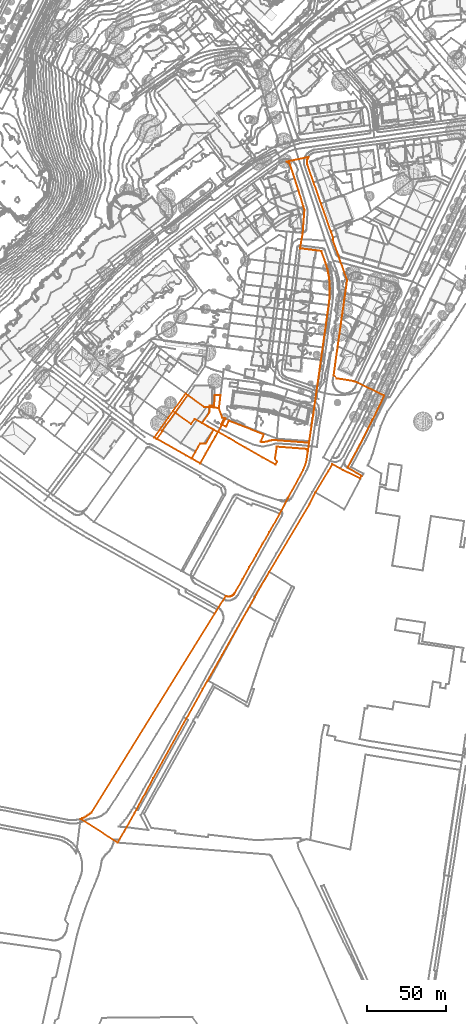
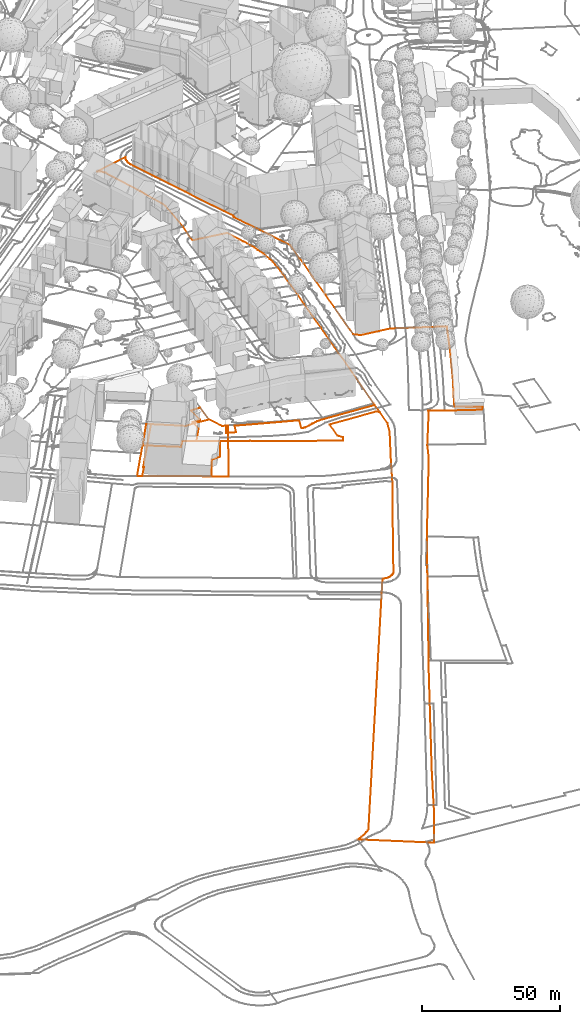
# Not in any storey, part 120 of 477: 3 geographic elements, 2 civil elements.
"""IFC4 model written with IfcOpenShell, lengths in metres."""

import ifcopenshell
import ifcopenshell.guid

model = None  # the IFC model being written
_history = None  # IfcOwnerHistory: only IFC2X3 demands one
_inside = {}  # id of a spatial element -> (the spatial element, [elements in it])
_under = {}  # id of a project, library or spatial element -> (it, [spatial elements below it])
_declared = {}  # id of a project -> (the project, [libraries it declares])
_typed = {}  # id of a type object -> (the type object, [elements of that type])
_made_of = {}  # id of a material, layer set ... -> (it, [elements and type objects made of it])


def new_model(schema):
    """Start an empty IFC model of exactly this schema.

    Asked for "IFC4X3", IfcOpenShell would pick the latest addendum, in which some entities
    have other attributes; the version numbers below select the first issue.
    IFC2X3 requires an IfcOwnerHistory on every rooted entity: one is made here for all.
    """
    global model, _history
    if schema == "IFC4X3":
        model = ifcopenshell.file(schema_version=(4, 3, 0, 0))
    else:
        model = ifcopenshell.file(schema=schema)
    _inside.clear()
    _under.clear()
    _declared.clear()
    _typed.clear()
    _made_of.clear()
    _history = None
    if model.schema == "IFC2X3":
        org = make("IfcOrganization", Name="unknown")
        user = make(
            "IfcPersonAndOrganization",
            ThePerson=make("IfcPerson", FamilyName="unknown"),
            TheOrganization=org,
        )
        app = make(
            "IfcApplication",
            ApplicationDeveloper=org,
            Version="unknown",
            ApplicationFullName="unknown",
            ApplicationIdentifier="unknown",
        )
        _history = make(
            "IfcOwnerHistory",
            OwningUser=user,
            OwningApplication=app,
            ChangeAction="ADDED",
            CreationDate=0,
        )
    return model


def make(cls, **values):
    """One entity of the class cls with the attributes given. An attribute that is None is left unset."""
    return model.create_entity(
        cls, **{name: value for name, value in values.items() if value is not None}
    )


def entity(cls, *values):
    """Any entity or typed value of the class cls, its attributes in the order of the schema. None: left unset."""
    e = model.create_entity(cls)
    for i, value in enumerate(values):
        if value is not None:
            e[i] = value
    return e


def rooted(cls, **values):
    """An entity with a GlobalId (a new one), such as an element, a storey or a relation."""
    return make(cls, GlobalId=ifcopenshell.guid.new(), OwnerHistory=_history, **values)


def si_unit(unit_type, name, prefix=None):
    """IfcSIUnit, for example si_unit("LENGTHUNIT", "METRE", prefix="MILLI")."""
    return make("IfcSIUnit", UnitType=unit_type, Prefix=prefix, Name=name)


def assignment(units):
    """IfcUnitAssignment: the units of a project."""
    return None if units is None else make("IfcUnitAssignment", Units=units)


def point(xyz):
    """IfcCartesianPoint."""
    return None if xyz is None else make("IfcCartesianPoint", Coordinates=xyz)


def direction(xyz):
    """IfcDirection."""
    return None if xyz is None else make("IfcDirection", DirectionRatios=xyz)


def frame(location, z_axis=None, x_axis=None):
    """IfcAxis2Placement3D, a coordinate frame: its origin and axes. An axis left out is left unset."""
    return make(
        "IfcAxis2Placement3D",
        Location=point(location),
        Axis=direction(z_axis),
        RefDirection=direction(x_axis),
    )


def origin_with_axes():
    """The frame at (0, 0, 0) with the z axis (0, 0, 1) and the x axis (1, 0, 0) written out."""
    return frame((0.0, 0.0, 0.0), z_axis=(0.0, 0.0, 1.0), x_axis=(1.0, 0.0, 0.0))


def place(relative_to, where):
    """IfcLocalPlacement: puts the frame where relative to a parent placement (None: the world)."""
    return make(
        "IfcLocalPlacement", PlacementRelTo=relative_to, RelativePlacement=where
    )


def context(
    kind, dimensions, precision=None, world=None, true_north=None, identifier=None
):
    """IfcGeometricRepresentationContext, for example the 3D "Model" context."""
    return make(
        "IfcGeometricRepresentationContext",
        ContextIdentifier=identifier,
        ContextType=kind,
        CoordinateSpaceDimension=dimensions,
        Precision=precision,
        WorldCoordinateSystem=world,
        TrueNorth=true_north,
    )


def subcontext(parent, identifier, kind, view, scale=None):
    """IfcGeometricRepresentationSubContext, for example "Body" below "Model"."""
    return make(
        "IfcGeometricRepresentationSubContext",
        ContextIdentifier=identifier,
        ContextType=kind,
        ParentContext=parent,
        TargetScale=scale,
        TargetView=view,
    )


def project(units=None, contexts=None):
    """IfcProject with its units and contexts."""
    return rooted(
        "IfcProject",
        Name="project",
        RepresentationContexts=contexts,
        UnitsInContext=assignment(units),
    )


def spatial(cls, under=None, at=None, **own):
    """A site, building, storey or space (cls), placed at a placement, below another one or the project."""
    s = rooted(cls, ObjectPlacement=at, **own)
    if under is not None:
        _under.setdefault(under.id(), (under, []))[1].append(s)
    return s


def shape(context_of_items, identifier, shape_type, items):
    """IfcShapeRepresentation: the items that make up one representation, for example the "Body"."""
    return make(
        "IfcShapeRepresentation",
        ContextOfItems=context_of_items,
        RepresentationIdentifier=identifier,
        RepresentationType=shape_type,
        Items=items,
    )


def made_of(thing, what):
    """Note that an element or type object is made of a material, layer set ...; save() writes the relation."""
    if what is not None:
        _made_of.setdefault(what.id(), (what, []))[1].append(thing)
    return thing


def element(
    cls,
    number,
    at=None,
    inside=None,
    cuts=None,
    type_object=None,
    material=None,
    context=None,
    identifier="Body",
    shape_type=None,
    held_by="IfcProductDefinitionShape",
    body=None,
    shapes=None,
    **own,
):
    """One element of the class cls, such as IfcWall. Its Tag is "e" and its number.

    at: its placement. inside: the storey or other place that contains it. cuts: it is an
    opening in that element (IfcRelVoidsElement). A single representation is given by context,
    identifier, shape_type and body (its items); several are given by shapes. held_by: the class
    of the entity that holds the representations. save() writes the other relations.
    """
    e = rooted(cls, Tag="e%d" % number, ObjectPlacement=at, **own)
    if body is not None:
        shapes = [shape(context, identifier, shape_type, body)]
    if shapes is not None:
        e.Representation = make(held_by, Representations=shapes)
    if inside is not None:
        _inside.setdefault(inside.id(), (inside, []))[1].append(e)
    if cuts is not None:
        rooted(
            "IfcRelVoidsElement", RelatingBuildingElement=cuts, RelatedOpeningElement=e
        )
    if type_object is not None:
        _typed.setdefault(type_object.id(), (type_object, []))[1].append(e)
    return made_of(e, material)


def aggregate(whole, parts):
    """IfcRelAggregates: a whole, such as a stair, and the parts it consists of."""
    return rooted("IfcRelAggregates", RelatingObject=whole, RelatedObjects=parts)


def save(model, path):
    """Write the relations noted so far, then the file.

    IfcRelAggregates (storeys below a building ...), IfcRelContainedInSpatialStructure (elements
    in a storey), IfcRelDefinesByType, IfcRelAssociatesMaterial and IfcRelDeclares: one each for
    every whole, place, type object, material and project.
    """
    for whole, parts in _under.values():
        aggregate(whole, parts)
    for where, things in _inside.values():
        rooted(
            "IfcRelContainedInSpatialStructure",
            RelatedElements=things,
            RelatingStructure=where,
        )
    for kind, things in _typed.values():
        rooted("IfcRelDefinesByType", RelatedObjects=things, RelatingType=kind)
    for what, things in _made_of.values():
        rooted("IfcRelAssociatesMaterial", RelatedObjects=things, RelatingMaterial=what)
    for by, libraries in _declared.values():
        rooted("IfcRelDeclares", RelatingContext=by, RelatedDefinitions=libraries)
    model.write(path)


model = new_model("IFC4")

# Units and contexts
model_context = context("Model", 3, precision=1e-05, world=origin_with_axes())
body_context = subcontext(model_context, "Body", "Model", "MODEL_VIEW")
ifc_project = project(units=[si_unit("AREAUNIT", "SQUARE_METRE"), si_unit("LENGTHUNIT", "METRE")], contexts=[model_context])

# Sites
site_1_placement = place(None, origin_with_axes())
site_1 = spatial("IfcSite", under=ifc_project, at=site_1_placement, Name="Topoexport Site")
site_2_placement = place(site_1_placement, origin_with_axes())
site_2 = spatial("IfcSite", under=site_1, at=site_2_placement, Name="TPX_ROADS_OUTLINES")

# Civil elements
civil_element_1_placement = place(site_2_placement, frame((396.8277320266, -22.1912839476, 502.3535095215), z_axis=(0.0, 0.0, 1.0), x_axis=(1.0, 0.0, 0.0)))
element("IfcCivilElement", 1, at=civil_element_1_placement, inside=site_2, Name="Roads Outline 106", ObjectType="ROAD", context=body_context, shape_type="GeometricCurveSet", body=[
    entity("IfcGeometricCurveSet", [entity("IfcIndexedPolyCurve", entity("IfcCartesianPointList3D", [[0.0, 0.0, 0.0], [2.4939999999, 4.3570000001, -0.0310227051], [5.2949999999, 9.253, -0.1067922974], [8.9939999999, 9.4620000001, -0.2078669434], [13.9250000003, 18.1199999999, -0.2815948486], [6.5330000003, 22.3149999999, -0.160249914], [11.2210000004, 28.8810000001, -0.2152403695], [11.273, 32.4539999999, -0.1824297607], [11.2860000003, 33.3810000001, -0.1427301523], [14.3360000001, 33.3370000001, -0.2032967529], [14.4399999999, 39.9469999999, -0.0756986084], [18.267, 39.8929999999, -0.2209097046], [17.2520000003, 31.73, -0.1475092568], [19.361, 25.8699999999, -0.2088416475], [20.702, 25.3470000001, -0.1493554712], [18.52, 21.503, -0.2726119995], [21.8760000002, 20.0419999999, -0.2940194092], [23.352, 23.8230000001, -0.2297094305], [45.4569999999, 15.199, -0.3642194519], [43.6500000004, 10.568, -0.3677642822], [44.0930000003, 10.4010000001, -0.3798910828], [44.557, 10.311, -0.3821252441], [44.9650000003, 10.2989999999, -0.3726623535], [45.3710000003, 10.3459999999, -0.3638283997], [46.9190000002, 10.621, -0.3820500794], [47.6910000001, 10.774, -0.3880681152], [48.449, 10.983, -0.379595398], [49.216, 11.1980000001, -0.3800167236], [49.9950000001, 11.3629999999, -0.3709176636], [50.7830000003, 11.4779999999, -0.3745904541], [51.7490000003, 11.55, -0.3795084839], [52.7170000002, 11.5449999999, -0.353530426], [53.682, 11.4650000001, -0.3360218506], [74.0380000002, 9.9199999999, -0.3412751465], [73.2650000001, 4.6699999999, -0.3279008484], [73.2750000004, 4.75, -0.3280342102], [73.2630000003, 5.0530000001, -0.327874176], [73.1750000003, 5.3429999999, -0.326700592], [73.017, 5.601, -0.3245934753], [72.844, 5.7779999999, -0.3222863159], [72.6380000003, 5.915, -0.3195390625], [72.409, 6.007, -0.3164850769], [72.165, 6.05, -0.3160200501], [53.7170000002, 7.45, -0.3371188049], [52.6159999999, -0.1300000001, -0.357984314], [53.8560000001, -2.05, -0.3414752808], [52.8360000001, -3.8999999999, -0.3482827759], [44.8570000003, 0.6399999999, -0.3751672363], [34.1880000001, 6.73, -0.4402862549], [23.52, 12.8, -0.2817779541], [16.611, 16.719, -0.328460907], [16.551, 16.629, -0.3292171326], [14.8319999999, 13.6040000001, -0.2986723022], [8.8910000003, 3.1429999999, -0.2066536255], [5.3800000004, -3.041, -0.1109750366], [0.0, 0.0, 0.0]]))]),
])
civil_element_2_placement = place(site_2_placement, frame((373.2707320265, -8.8722839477, 502.704639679), z_axis=(0.0, 0.0, 1.0), x_axis=(1.0, 0.0, 0.0)))
element("IfcCivilElement", 2, at=civil_element_2_placement, inside=site_2, Name="Roads Outline 132", ObjectType="ROAD", context=body_context, shape_type="GeometricCurveSet", body=[
    entity("IfcGeometricCurveSet", [entity("IfcIndexedPolyCurve", entity("IfcCartesianPointList3D", [[0.0, 0.0, 0.0], [8.6710000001, 12.0900000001, -0.3884355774], [11.8230000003, 16.49, -0.601355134], [19.7290000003, 27.5190000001, -0.593070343], [21.165, 26.4920000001, -0.5794281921], [13.2050000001, 15.5010000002, -0.5926481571], [5.0630000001, 4.2610000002, -0.4382552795], [5.2830000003, 4.1030000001, -0.4494070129], [1.639, -0.9269999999, -0.0111550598], [0.0, 0.0, 0.0]]))]),
])

# Site
site_3_placement = place(site_1_placement, origin_with_axes())
site_3 = spatial("IfcSite", under=site_1, at=site_3_placement, Name="TPX_CADASTRES")

# Geographic elements
geographic_element_1_placement = place(site_3_placement, frame((326.9387320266, -249.2112839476, 503.7997318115), z_axis=(0.0, 0.0, 1.0), x_axis=(1.0, 0.0, 0.0)))
element("IfcGeographicElement", 3, at=geographic_element_1_placement, inside=site_3, Name="Cadastre 148", PredefinedType="NOTDEFINED", context=body_context, shape_type="GeometricCurveSet", body=[
    entity("IfcGeometricCurveSet", [entity("IfcIndexedPolyCurve", entity("IfcCartesianPointList3D", [[0.0, 0.0, 0.0], [1.0800000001, 0.3840000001, 0.0473997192], [2.1320000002, 0.8389999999, 0.0352511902], [3.1520000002, 1.362, -0.0343145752], [4.1350000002, 1.9510000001, -0.106791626], [5.077, 2.6030000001, -0.1770129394], [5.9750000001, 3.3160000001, -0.2591837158], [6.8230000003, 4.0859999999, -0.29340979], [84.46, 129.2280000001, -1.7371923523], [91.4500000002, 140.4979999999, -1.7385305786], [91.943, 140.2860000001, -1.7412086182], [92.4580000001, 140.139, -1.7398558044], [92.9890000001, 140.0589999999, -1.732677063], [93.5249999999, 140.047, -1.7271152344], [94.0580000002, 140.1040000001, -1.7230487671], [94.5800000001, 140.2280000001, -1.7250083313], [95.085, 140.4169999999, -1.7299553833], [95.5619999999, 140.6680000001, -1.7232233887], [96.003, 140.9790000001, -1.71197229], [96.3999999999, 141.3430000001, -1.705848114], [96.7480000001, 141.7560000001, -1.7056250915], [97.04, 142.209, -1.7054379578], [102.071, 151.1189999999, -1.7500042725], [106.2310000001, 158.5390000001, -1.8577313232], [110.466, 165.909, -1.7952344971], [114.6510000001, 173.3189999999, -1.8235928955], [118.892, 180.669, -1.8261220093], [125.3319999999, 192.0090000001, -1.8550512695], [130.7430000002, 202.3400000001, -1.9273494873], [138.4930000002, 216.5900000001, -1.8546127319], [140.1830000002, 219.7, -1.8177750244], [142.1140000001, 224.6899999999, -1.76213797], [143.1540000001, 231.6899999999, -1.7741231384], [144.0750000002, 237.9399999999, -1.7901306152], [147.9960000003, 264.6899999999, -1.7936569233], [151.4080000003, 289.0109999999, -1.7729133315], [152.5190000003, 296.9410000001, -1.8383704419], [153.6290000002, 304.871, -1.8246145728], [154.5, 311.1310000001, -1.6446313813], [155.3700000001, 317.331, -1.7930121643], [156.2510000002, 323.621, -1.8435673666], [156.5460000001, 325.683, -1.8635925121], [156.77, 327.754, -1.81587976], [156.9210000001, 329.831, -1.7912766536], [157.0010000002, 331.868, -1.7383652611], [157.0150000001, 333.9070000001, -1.761699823], [156.9620000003, 335.946, -1.7696614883], [156.8420000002, 337.9809999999, -1.659194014], [156.6740000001, 339.655, -1.5914249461], [156.4509999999, 341.3230000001, -1.6932847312], [156.1750000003, 342.983, -1.7862265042], [155.8459999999, 344.6329999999, -1.7203272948], [155.463, 346.2709999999, -1.7522749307], [154.929, 348.1869999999, -1.7536338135], [154.3330000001, 350.085, -1.7327835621], [153.673, 351.9609999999, -1.7263273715], [151.7630000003, 357.682, -1.6363437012], [138.2350000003, 359.371, -1.1692671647], [139.9140000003, 369.0320000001, -1.5518092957], [141.003, 383.4920000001, -1.5411076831], [140.3230000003, 385.7820000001, -1.4554988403], [137.3530000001, 395.852, -1.2573714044], [132.0830000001, 411.8030000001, -0.9490100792], [131.9070000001, 412.237, -0.9700017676], [131.6740000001, 412.6429999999, -0.9880939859], [131.389, 413.014, -0.9938865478], [131.0580000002, 413.345, -0.9945271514], [130.6850000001, 413.628, -0.9788221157], [130.2770000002, 413.8589999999, -0.956223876], [129.8430000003, 414.0330000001, -0.9142789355], [143.4820000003, 416.953, -1.0492979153], [143.1740000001, 416.372, -1.0449728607], [142.9310000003, 415.7609999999, -1.0551434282], [142.7560000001, 415.1270000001, -1.0832635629], [142.6520000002, 414.477, -1.1054592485], [142.6200000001, 413.8200000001, -1.1273681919], [142.659, 413.1640000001, -1.1430748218], [142.77, 412.5149999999, -1.1484855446], [142.952, 411.8829999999, -1.1535593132], [146.8020000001, 400.943, -1.362483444], [151.4620000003, 387.702, -1.5025124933], [157.6680000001, 370.0689999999, -1.6033016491], [159.1370000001, 365.895, -1.5849450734], [158.9960000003, 365.602, -1.6002669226], [158.909, 365.2890000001, -1.6117958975], [158.8799999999, 364.9650000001, -1.6190536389], [158.9100000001, 364.6410000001, -1.6200508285], [161.9720000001, 356.132, -1.5747199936], [167.8710000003, 339.442, -1.7734245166], [166.6310000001, 330.6810000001, -1.697255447], [166.1000000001, 326.9210000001, -1.4448296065], [164.9100000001, 318.5009999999, -1.7177434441], [163.159, 306.051, -1.5916551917], [161.9580000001, 297.6410000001, -1.6021955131], [159.3870000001, 279.371, -1.6482001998], [161.3060000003, 277.5109999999, -1.5746782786], [172.7350000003, 275.611, -1.4991954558], [191.2630000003, 266.6710000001, -1.6263780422], [183.7420000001, 251.081, -1.610717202], [175.912, 235.6710000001, -1.4536324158], [168.1310000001, 221.27, -1.4379643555], [176.9130000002, 216.068, -1.4717642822], [175.9369999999, 214.463, -1.452911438], [165.3810000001, 219.6899999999, -1.2976675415], [158.5220000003, 223.4299999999, -1.2777229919], [156.202, 219.3100000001, -1.3504928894], [147.824, 205.655, -1.8349112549], [144.2310000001, 198.3500000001, -1.7929061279], [118.7600000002, 155.5889999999, -1.8260494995], [107.5690000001, 135.899, -1.8333444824], [89.088, 103.2579999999, -1.6627828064], [79.997, 87.2180000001, -1.6729487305], [76.9670000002, 81.858, -1.6356199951], [45.8340000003, 25.7420000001, -1.080973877], [33.9840000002, 3.6459999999, -0.8345757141], [23.3840000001, -14.9750000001, -0.552008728], [0.0, 0.0, 0.0]]))]),
])
geographic_element_2_placement = place(site_3_placement, frame((385.0937320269, 7.6177160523, 502.1032845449), z_axis=(0.0, 0.0, 1.0), x_axis=(1.0, 0.0, 0.0)))
element("IfcGeographicElement", 4, at=geographic_element_2_placement, inside=site_3, Name="Cadastre 153", PredefinedType="NOTDEFINED", context=body_context, shape_type="GeometricCurveSet", body=[
    entity("IfcGeometricCurveSet", [entity("IfcIndexedPolyCurve", entity("IfcCartesianPointList3D", [[0.0, 0.0, 0.0], [7.906, 11.0290000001, 0.008284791], [9.5249999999, 9.871, 0.0236618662], [19.6469999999, 2.6310000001, 0.1060227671], [23.0069999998, 2.645, 0.0677952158], [28.986, 1.9210000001, 0.1027157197], [31.0949999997, -3.939, 0.0413833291], [33.0949999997, -4.7189999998, 0.1066504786], [28.3449999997, -13.0899999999, -0.0782359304], [28.2849999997, -13.1799999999, -0.078992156], [13.696, -4.8999999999, 0.0576203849], [11.3759999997, -8.1399999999, 0.2546824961], [1.602, -1.1459999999, 0.0128899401], [0.0, 0.0, 0.0]]))]),
])
geographic_element_3_placement = place(site_3_placement, frame((373.2707320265, -8.8722839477, 502.704639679), z_axis=(0.0, 0.0, 1.0), x_axis=(1.0, 0.0, 0.0)))
element("IfcGeographicElement", 5, at=geographic_element_3_placement, inside=site_3, Name="Cadastre 154", PredefinedType="NOTDEFINED", context=body_context, shape_type="GeometricCurveSet", body=[
    entity("IfcGeometricCurveSet", [entity("IfcIndexedPolyCurve", entity("IfcCartesianPointList3D", [[0.0, 0.0, 0.0], [8.6710000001, 12.0900000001, -0.3884355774], [11.8230000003, 16.49, -0.601355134], [13.4250000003, 15.344, -0.5884651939], [23.199, 8.3500000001, -0.3466726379], [25.5190000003, 11.5900000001, -0.5437347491], [40.108, 3.3100000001, -0.68034729], [28.9370000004, -16.3599999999, -0.4621051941], [0.0, 0.0, 0.0]]))]),
])

save(model, "model.ifc")
